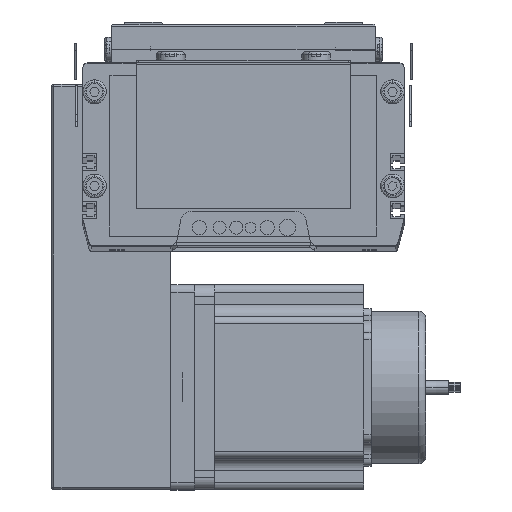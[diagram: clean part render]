
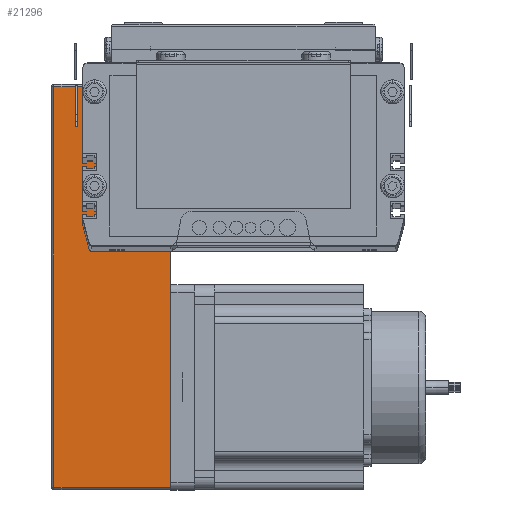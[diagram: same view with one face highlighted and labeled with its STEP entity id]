
A CAD part, top view. The second image highlights one B-rep face of the part: STEP entity #21296.
In plain terms, the highlighted planar face has unit normal (0, 0, 1) as drawn and (0, -1, 0) by its records, which use the part's own axes.
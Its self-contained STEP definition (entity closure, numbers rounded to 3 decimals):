
#18976 = VERTEX_POINT ( 'NONE', #30852 ) ;
#18986 = VERTEX_POINT ( 'NONE', #31048 ) ;
#19000 = VERTEX_POINT ( 'NONE', #31128 ) ;
#19421 = VERTEX_POINT ( 'NONE', #32451 ) ;
#19528 = VERTEX_POINT ( 'NONE', #32760 ) ;
#19539 = EDGE_CURVE ( 'NONE', #19528, #19421, #32223, .T. ) ;
#21173 = ORIENTED_EDGE ( 'NONE', *, *, #21323, .T. ) ;
#21190 = VERTEX_POINT ( 'NONE', #40139 ) ;
#21198 = EDGE_LOOP ( 'NONE', ( #21302, #21314, #21307, #21173, #21289, #21321, #21262, #21247, #21280 ) ) ;
#21207 = EDGE_CURVE ( 'NONE', #18976, #18986, #40114, .T. ) ;
#21216 = EDGE_CURVE ( 'NONE', #19421, #21256, #40206, .T. ) ;
#21247 = ORIENTED_EDGE ( 'NONE', *, *, #21264, .T. ) ;
#21253 = VERTEX_POINT ( 'NONE', #40425 ) ;
#21256 = VERTEX_POINT ( 'NONE', #40441 ) ;
#21262 = ORIENTED_EDGE ( 'NONE', *, *, #21216, .T. ) ;
#21264 = EDGE_CURVE ( 'NONE', #21256, #21253, #40426, .T. ) ;
#21273 = EDGE_CURVE ( 'NONE', #21253, #21190, #40518, .T. ) ;
#21280 = ORIENTED_EDGE ( 'NONE', *, *, #21273, .T. ) ;
#21289 = ORIENTED_EDGE ( 'NONE', *, *, #21394, .T. ) ;
#21296 = ADVANCED_FACE ( 'NONE', ( #40424 ), #40533, .F. ) ;
#21302 = ORIENTED_EDGE ( 'NONE', *, *, #21305, .T. ) ;
#21304 = EDGE_CURVE ( 'NONE', #24751, #18976, #40608, .T. ) ;
#21305 = EDGE_CURVE ( 'NONE', #21190, #24751, #40594, .T. ) ;
#21307 = ORIENTED_EDGE ( 'NONE', *, *, #21207, .T. ) ;
#21314 = ORIENTED_EDGE ( 'NONE', *, *, #21304, .T. ) ;
#21321 = ORIENTED_EDGE ( 'NONE', *, *, #19539, .T. ) ;
#21323 = EDGE_CURVE ( 'NONE', #18986, #19000, #40586, .T. ) ;
#21394 = EDGE_CURVE ( 'NONE', #19000, #19528, #41153, .T. ) ;
#24751 = VERTEX_POINT ( 'NONE', #47583 ) ;
#30852 = CARTESIAN_POINT ( 'NONE',  ( 10.902, 0., 0. ) ) ;
#31048 = CARTESIAN_POINT ( 'NONE',  ( 74.998, 0., 0. ) ) ;
#31128 = CARTESIAN_POINT ( 'NONE',  ( 80.482, 0., 0. ) ) ;
#32179 = DIRECTION ( 'NONE',  ( 1., 0., 0. ) ) ;
#32180 = VECTOR ( 'NONE', #32179, 1000. ) ;
#32182 = CARTESIAN_POINT ( 'NONE',  ( 0., 0., 0. ) ) ;
#32223 = LINE ( 'NONE', #32182, #32180 ) ;
#32451 = CARTESIAN_POINT ( 'NONE',  ( 169., 0., 0. ) ) ;
#32760 = CARTESIAN_POINT ( 'NONE',  ( 85.9, 0., 0. ) ) ;
#40003 = DIRECTION ( 'NONE',  ( 1., 0., 0. ) ) ;
#40114 = LINE ( 'NONE', #40118, #40232 ) ;
#40118 = CARTESIAN_POINT ( 'NONE',  ( 0., 0., 0. ) ) ;
#40139 = CARTESIAN_POINT ( 'NONE',  ( 1., 0., 0. ) ) ;
#40202 = DIRECTION ( 'NONE',  ( 0., 0., 1. ) ) ;
#40204 = VECTOR ( 'NONE', #40202, 1000. ) ;
#40205 = CARTESIAN_POINT ( 'NONE',  ( 169., 0., 50. ) ) ;
#40206 = LINE ( 'NONE', #40205, #40204 ) ;
#40232 = VECTOR ( 'NONE', #40003, 1000. ) ;
#40424 = FACE_OUTER_BOUND ( 'NONE', #21198, .T. ) ;
#40425 = CARTESIAN_POINT ( 'NONE',  ( 1., 0., 49. ) ) ;
#40426 = LINE ( 'NONE', #40561, #40559 ) ;
#40441 = CARTESIAN_POINT ( 'NONE',  ( 169., 0., 49. ) ) ;
#40510 = DIRECTION ( 'NONE',  ( 0., 0., -1. ) ) ;
#40512 = VECTOR ( 'NONE', #40510, 1000. ) ;
#40514 = CARTESIAN_POINT ( 'NONE',  ( 1., 0., 50. ) ) ;
#40518 = LINE ( 'NONE', #40514, #40512 ) ;
#40533 = PLANE ( 'NONE',  #40609 ) ;
#40557 = DIRECTION ( 'NONE',  ( -1., 0., 0. ) ) ;
#40559 = VECTOR ( 'NONE', #40557, 1000. ) ;
#40561 = CARTESIAN_POINT ( 'NONE',  ( 0., 0., 49. ) ) ;
#40586 = LINE ( 'NONE', #40726, #40725 ) ;
#40589 = DIRECTION ( 'NONE',  ( 1., 0., 0. ) ) ;
#40590 = VECTOR ( 'NONE', #40589, 1000. ) ;
#40592 = CARTESIAN_POINT ( 'NONE',  ( 0., 0., 0. ) ) ;
#40594 = LINE ( 'NONE', #40592, #40590 ) ;
#40597 = DIRECTION ( 'NONE',  ( 1., 0., 0. ) ) ;
#40598 = VECTOR ( 'NONE', #40597, 1000. ) ;
#40600 = DIRECTION ( 'NONE',  ( 0., 0., 1. ) ) ;
#40602 = DIRECTION ( 'NONE',  ( 0., 1., 0. ) ) ;
#40607 = CARTESIAN_POINT ( 'NONE',  ( 0., 0., 0. ) ) ;
#40608 = LINE ( 'NONE', #40607, #40598 ) ;
#40609 = AXIS2_PLACEMENT_3D ( 'NONE', #40615, #40602, #40600 ) ;
#40615 = CARTESIAN_POINT ( 'NONE',  ( 0., 0., 50. ) ) ;
#40724 = DIRECTION ( 'NONE',  ( 1., 0., 0. ) ) ;
#40725 = VECTOR ( 'NONE', #40724, 1000. ) ;
#40726 = CARTESIAN_POINT ( 'NONE',  ( 0., 0., 0. ) ) ;
#41147 = DIRECTION ( 'NONE',  ( 1., 0., 0. ) ) ;
#41149 = VECTOR ( 'NONE', #41147, 1000. ) ;
#41151 = CARTESIAN_POINT ( 'NONE',  ( 0., 0., 0. ) ) ;
#41153 = LINE ( 'NONE', #41151, #41149 ) ;
#47583 = CARTESIAN_POINT ( 'NONE',  ( 5.418, 0., 0. ) ) ;
